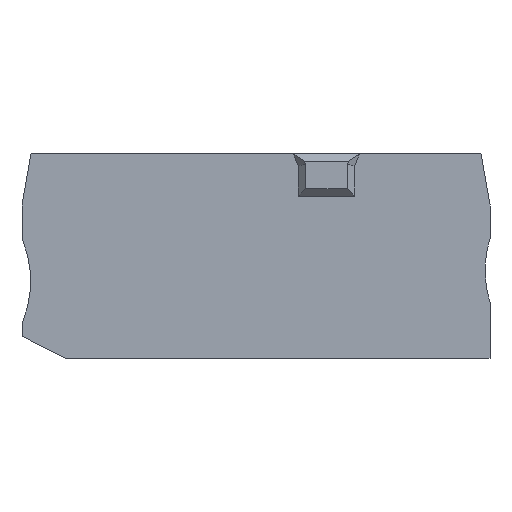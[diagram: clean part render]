
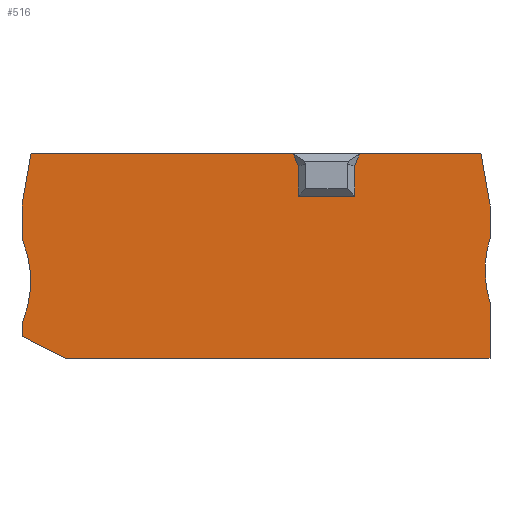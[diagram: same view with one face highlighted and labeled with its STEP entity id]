
A CAD part, left-side view. The second image highlights one B-rep face of the part: STEP entity #516.
In plain terms, the highlighted planar face has unit normal (-1, 0, 0).
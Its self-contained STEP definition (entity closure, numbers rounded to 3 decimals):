
#32=CARTESIAN_POINT('',(0.,27.2,27.35));
#33=VERTEX_POINT('',#32);
#49=CARTESIAN_POINT('',(0.,27.918,29.05));
#50=VERTEX_POINT('',#49);
#56=CARTESIAN_POINT('',(0.,27.2,27.35));
#57=DIRECTION('',(0.,0.389,0.921));
#58=VECTOR('',#57,1.846);
#59=LINE('',#56,#58);
#60=EDGE_CURVE('',#33,#50,#59,.T.);
#119=CARTESIAN_POINT('',(0.,18.482,29.05));
#120=VERTEX_POINT('',#119);
#135=CARTESIAN_POINT('',(0.,19.2,27.35));
#136=VERTEX_POINT('',#135);
#143=CARTESIAN_POINT('',(0.,18.482,29.05));
#144=DIRECTION('',(0.,0.389,-0.921));
#145=VECTOR('',#144,1.846);
#146=LINE('',#143,#145);
#147=EDGE_CURVE('',#120,#136,#146,.T.);
#245=CARTESIAN_POINT('',(0.,19.2,23.05));
#246=VERTEX_POINT('',#245);
#253=CARTESIAN_POINT('',(0.,19.2,27.35));
#254=DIRECTION('',(0.,0.,-1.));
#255=VECTOR('',#254,4.3);
#256=LINE('',#253,#255);
#257=EDGE_CURVE('',#136,#246,#256,.T.);
#276=CARTESIAN_POINT('',(0.,27.2,23.05));
#277=VERTEX_POINT('',#276);
#284=CARTESIAN_POINT('',(0.,19.2,23.05));
#285=DIRECTION('',(0.,1.,0.));
#286=VECTOR('',#285,8.);
#287=LINE('',#284,#286);
#288=EDGE_CURVE('',#246,#277,#287,.T.);
#337=CARTESIAN_POINT('',(0.,27.2,23.05));
#338=DIRECTION('',(0.,0.,1.));
#339=VECTOR('',#338,4.3);
#340=LINE('',#337,#339);
#341=EDGE_CURVE('',#277,#33,#340,.T.);
#375=CARTESIAN_POINT('',(0.,0.,0.05));
#376=VERTEX_POINT('',#375);
#391=CARTESIAN_POINT('',(0.,0.,8.));
#392=VERTEX_POINT('',#391);
#399=CARTESIAN_POINT('',(0.,0.,0.05));
#400=DIRECTION('',(0.,0.,1.));
#401=VECTOR('',#400,7.95);
#402=LINE('',#399,#401);
#403=EDGE_CURVE('',#376,#392,#402,.T.);
#408=CARTESIAN_POINT('',(0.,33.2,0.5));
#409=DIRECTION('',(-1.,0.,0.));
#410=DIRECTION('',(0.,-1.,0.));
#411=AXIS2_PLACEMENT_3D('',#408,#409,#410);
#412=PLANE('',#411);
#413=CARTESIAN_POINT('',(0.,65.119,29.05));
#414=VERTEX_POINT('',#413);
#415=CARTESIAN_POINT('',(0.,66.4,21.787));
#416=VERTEX_POINT('',#415);
#417=CARTESIAN_POINT('',(0.,65.119,29.05));
#418=DIRECTION('',(0.,0.174,-0.985));
#419=VECTOR('',#418,7.375);
#420=LINE('',#417,#419);
#421=EDGE_CURVE('',#414,#416,#420,.T.);
#422=ORIENTED_EDGE('',*,*,#421,.T.);
#423=CARTESIAN_POINT('',(0.,66.4,17.));
#424=VERTEX_POINT('',#423);
#425=CARTESIAN_POINT('',(0.,66.4,17.));
#426=DIRECTION('',(-0.,-0.,1.));
#427=VECTOR('',#426,4.787);
#428=LINE('',#425,#427);
#429=EDGE_CURVE('',#424,#416,#428,.T.);
#430=ORIENTED_EDGE('',*,*,#429,.F.);
#431=CARTESIAN_POINT('',(0.,66.4,5.));
#432=VERTEX_POINT('',#431);
#433=CARTESIAN_POINT('',(0.,80.148,11.));
#434=DIRECTION('',(1.,0.,0.));
#435=DIRECTION('',(-0.,1.,0.));
#436=AXIS2_PLACEMENT_3D('',#433,#434,#435);
#437=CIRCLE('',#436,15.);
#438=EDGE_CURVE('',#424,#432,#437,.T.);
#439=ORIENTED_EDGE('',*,*,#438,.T.);
#440=CARTESIAN_POINT('',(0.,66.4,3.136));
#441=VERTEX_POINT('',#440);
#442=CARTESIAN_POINT('',(0.,66.4,3.136));
#443=DIRECTION('',(-0.,-0.,1.));
#444=VECTOR('',#443,1.864);
#445=LINE('',#442,#444);
#446=EDGE_CURVE('',#441,#432,#445,.T.);
#447=ORIENTED_EDGE('',*,*,#446,.F.);
#448=CARTESIAN_POINT('',(0.,60.209,0.05));
#449=VERTEX_POINT('',#448);
#450=CARTESIAN_POINT('',(0.,60.209,0.05));
#451=DIRECTION('',(-0.,0.895,0.446));
#452=VECTOR('',#451,6.917);
#453=LINE('',#450,#452);
#454=EDGE_CURVE('',#449,#441,#453,.T.);
#455=ORIENTED_EDGE('',*,*,#454,.F.);
#456=CARTESIAN_POINT('',(0.,60.209,0.05));
#457=DIRECTION('',(0.,-1.,0.));
#458=VECTOR('',#457,60.209);
#459=LINE('',#456,#458);
#460=EDGE_CURVE('',#449,#376,#459,.T.);
#461=ORIENTED_EDGE('',*,*,#460,.T.);
#462=ORIENTED_EDGE('',*,*,#403,.T.);
#463=CARTESIAN_POINT('',(0.,0.691,12.5));
#464=VERTEX_POINT('',#463);
#465=CARTESIAN_POINT('',(0.,-14.309,12.5));
#466=DIRECTION('',(1.,0.,0.));
#467=DIRECTION('',(-0.,1.,0.));
#468=AXIS2_PLACEMENT_3D('',#465,#466,#467);
#469=CIRCLE('',#468,15.);
#470=EDGE_CURVE('',#392,#464,#469,.T.);
#471=ORIENTED_EDGE('',*,*,#470,.T.);
#472=CARTESIAN_POINT('',(0.,-0.,17.));
#473=VERTEX_POINT('',#472);
#474=CARTESIAN_POINT('',(0.,-14.309,12.5));
#475=DIRECTION('',(1.,0.,0.));
#476=DIRECTION('',(-0.,1.,0.));
#477=AXIS2_PLACEMENT_3D('',#474,#475,#476);
#478=CIRCLE('',#477,15.);
#479=EDGE_CURVE('',#464,#473,#478,.T.);
#480=ORIENTED_EDGE('',*,*,#479,.T.);
#481=CARTESIAN_POINT('',(0.,0.,21.787));
#482=VERTEX_POINT('',#481);
#483=CARTESIAN_POINT('',(0.,0.,17.));
#484=DIRECTION('',(0.,0.,1.));
#485=VECTOR('',#484,4.787);
#486=LINE('',#483,#485);
#487=EDGE_CURVE('',#473,#482,#486,.T.);
#488=ORIENTED_EDGE('',*,*,#487,.T.);
#489=CARTESIAN_POINT('',(0.,1.281,29.05));
#490=VERTEX_POINT('',#489);
#491=CARTESIAN_POINT('',(0.,0.,21.787));
#492=DIRECTION('',(0.,0.174,0.985));
#493=VECTOR('',#492,7.375);
#494=LINE('',#491,#493);
#495=EDGE_CURVE('',#482,#490,#494,.T.);
#496=ORIENTED_EDGE('',*,*,#495,.T.);
#497=CARTESIAN_POINT('',(0.,18.482,29.05));
#498=DIRECTION('',(0.,-1.,0.));
#499=VECTOR('',#498,17.201);
#500=LINE('',#497,#499);
#501=EDGE_CURVE('',#120,#490,#500,.T.);
#502=ORIENTED_EDGE('',*,*,#501,.F.);
#503=ORIENTED_EDGE('',*,*,#147,.T.);
#504=ORIENTED_EDGE('',*,*,#257,.T.);
#505=ORIENTED_EDGE('',*,*,#288,.T.);
#506=ORIENTED_EDGE('',*,*,#341,.T.);
#507=ORIENTED_EDGE('',*,*,#60,.T.);
#508=CARTESIAN_POINT('',(0.,65.119,29.05));
#509=DIRECTION('',(0.,-1.,0.));
#510=VECTOR('',#509,37.201);
#511=LINE('',#508,#510);
#512=EDGE_CURVE('',#414,#50,#511,.T.);
#513=ORIENTED_EDGE('',*,*,#512,.F.);
#514=EDGE_LOOP('',(#422,#430,#439,#447,#455,#461,#462,#471,#480,#488,#496,#502,#503,#504,#505,#506,#507,#513));
#515=FACE_BOUND('',#514,.T.);
#516=ADVANCED_FACE('',(#515),#412,.T.);
